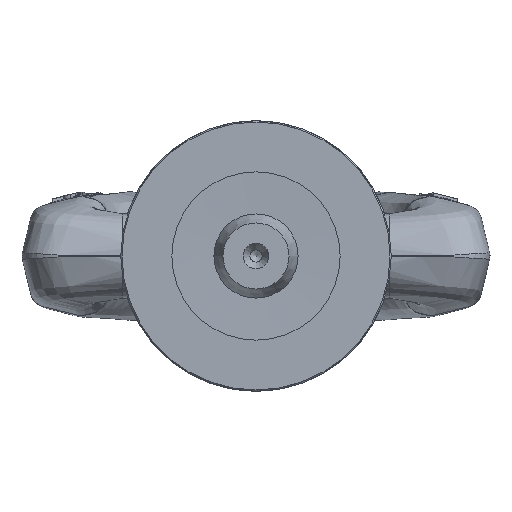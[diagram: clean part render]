
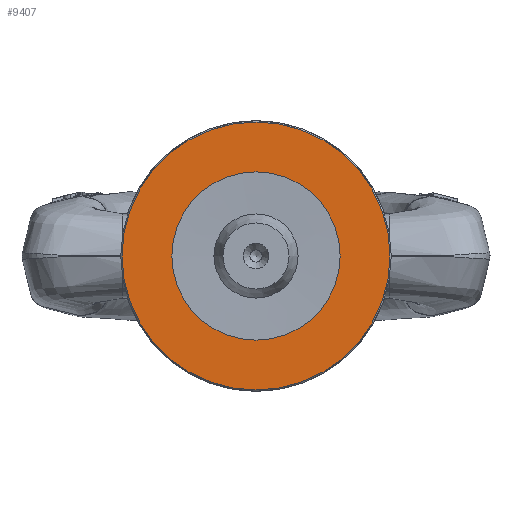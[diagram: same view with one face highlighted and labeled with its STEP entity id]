
A CAD part, front view. The second image highlights one B-rep face of the part: STEP entity #9407.
In plain terms, the highlighted planar face has unit normal (0, -1, 0) as drawn and (0, 0, -1) by its records, which use the part's own axes.
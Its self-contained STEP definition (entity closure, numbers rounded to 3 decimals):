
#912=FACE_BOUND('',#3426,.T.);
#2263=PLANE('',#10091);
#2804=FACE_OUTER_BOUND('',#3425,.T.);
#3425=EDGE_LOOP('',(#8814));
#3426=EDGE_LOOP('',(#8815));
#3647=CIRCLE('',#10088,22.3);
#3649=CIRCLE('',#10092,14.);
#4669=VERTEX_POINT('',#26843);
#4671=VERTEX_POINT('',#26849);
#6054=EDGE_CURVE('',#4669,#4669,#3647,.T.);
#6056=EDGE_CURVE('',#4671,#4671,#3649,.T.);
#8814=ORIENTED_EDGE('',*,*,#6054,.F.);
#8815=ORIENTED_EDGE('',*,*,#6056,.F.);
#9407=ADVANCED_FACE('',(#2804,#912),#2263,.F.);
#10088=AXIS2_PLACEMENT_3D('',#26844,#11799,#11800);
#10091=AXIS2_PLACEMENT_3D('',#26848,#11805,#11806);
#10092=AXIS2_PLACEMENT_3D('',#26850,#11807,#11808);
#11799=DIRECTION('center_axis',(0.,0.,1.));
#11800=DIRECTION('ref_axis',(-1.,0.,0.));
#11805=DIRECTION('center_axis',(0.,0.,1.));
#11806=DIRECTION('ref_axis',(1.,0.,0.));
#11807=DIRECTION('center_axis',(0.,0.,-1.));
#11808=DIRECTION('ref_axis',(-1.,0.,0.));
#26843=CARTESIAN_POINT('',(22.3,0.,0.));
#26844=CARTESIAN_POINT('Origin',(0.,0.,0.));
#26848=CARTESIAN_POINT('Origin',(0.,0.,0.));
#26849=CARTESIAN_POINT('',(14.,0.,0.));
#26850=CARTESIAN_POINT('Origin',(0.,0.,0.));
